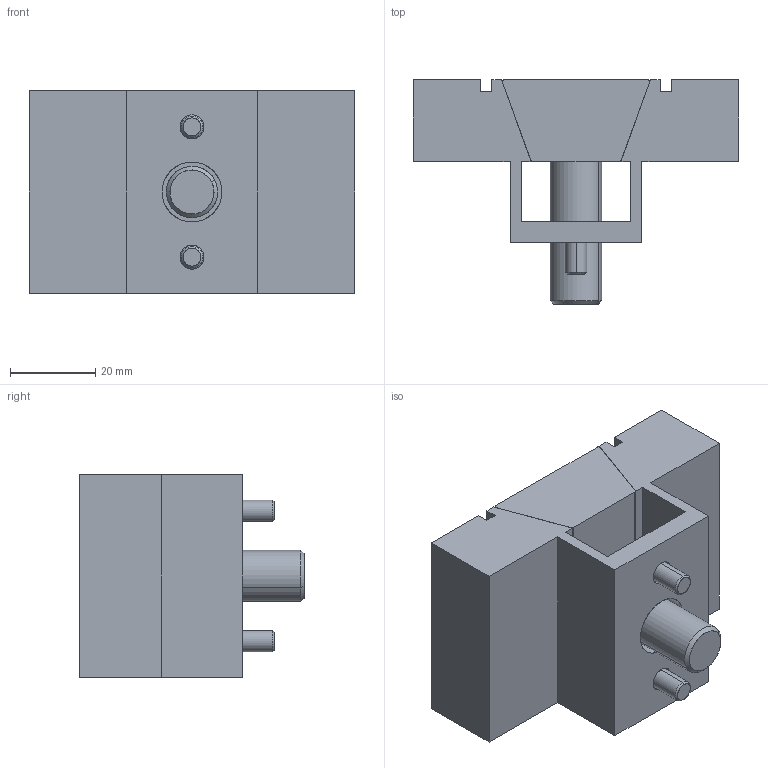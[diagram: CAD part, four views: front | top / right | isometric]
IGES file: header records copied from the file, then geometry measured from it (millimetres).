
Start section: SolidWorks IGES file using analytic representation for surfaces
Global section: file name: E:\Pending\12140_v2\12140_v2_20171107_IGES\12140.W0150.igs; native system: SolidWorks 2017; preprocessor: SolidWorks 2017; author: liam_; date: 171214.131418; units: millimetre
Bounding box: 76.2 x 52.5 x 47.5 mm (x, y, z)
Surface area: 26798.4 mm2 (no closed solid volume)
Topology: 0 solids, 0 shells, 114 faces, 1154 edges, 1150 vertices
Faces by surface type: bspline 73, revolution 41
